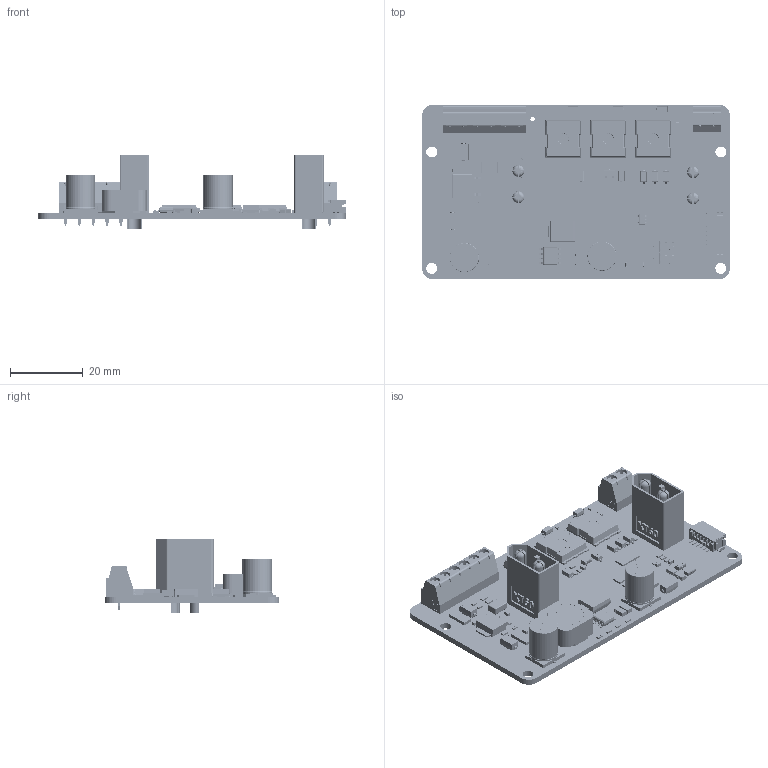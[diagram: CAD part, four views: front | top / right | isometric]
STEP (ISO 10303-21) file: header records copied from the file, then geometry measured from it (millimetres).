
FILE_DESCRIPTION(('Open CASCADE Model'),'2;1');
FILE_NAME('Open CASCADE Shape Model','2022-05-27T17:03:23',('Author'),( 'Open CASCADE'),'Open CASCADE STEP processor 6.8','Open CASCADE 6.8' ,'Unknown');
FILE_SCHEMA(('AUTOMOTIVE_DESIGN { 1 0 10303 214 1 1 1 1 }'));
Length unit declared in the file: millimetre
Products named in the file (144): PCB; Board; Open CASCADE STEP translator 6.8 1.1.1; D15; User_Library-SOD-123_DiodesInc; D4; D3; R3; R0603; R18; R22; Q1; SOT-23-3; D2; C13; Capacitor_0603_SMD; User_Library-cap0603_cap0603_body_??; User_Library-cap0603_pad_0603_??; R20; R19; L2; 6002790704; Extruded; 6002790544; 6002790384; 6002790224; L1; C8; SL-H; C4; U3; TO252; LOGO?; Q4; PG-HSOF-8-1; 6002792864; 6002792704; 6002792544; 6002792304; Cylinder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
Assembly tree (218 placements, depth 4):
  PCB
    Board
      Open CASCADE STEP translator 6.8 1.1.1
    D15
      User_Library-SOD-123_DiodesInc
    D4
      User_Library-SOD-123_DiodesInc
    D3
      User_Library-SOD-123_DiodesInc
    R3
      R0603
    R18
      R0603
    R22
      R0603
    Q1
      SOT-23-3
    D2
      User_Library-SOD-123_DiodesInc
    C13
      Capacitor_0603_SMD
        User_Library-cap0603_cap0603_body_??
        User_Library-cap0603_pad_0603_??
    R20
      R0603
    R19
      R0603
    L2
      6002790704
        Extruded
      6002790544
        Extruded
      6002790384
        Extruded
      6002790224
        Extruded
    L1
      6002790704
        Extruded
      6002790544
        Extruded
      6002790384
        Extruded
      6002790224
        Extruded
    C8
      SL-H
    C4
      SL-H
    U3
      TO252
        LOGO?
        TO252
    Q4
      PG-HSOF-8-1
      6002792864
        Extruded
      6002792704
        Extruded
      6002792544
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Bounding box: 84.65 x 48 x 20.5 mm (x, y, z)
Volume: 13684 mm3; surface area: 19683.1 mm2
Topology: 409 solids, 409 shells, 10903 faces, 27320 edges, 17440 vertices
Faces by surface type: plane 5539, bspline 2784, cylinder 2036, sphere 226, torus 154, extrusion 96, revolution 48, cone 20
Full cylindrical faces by diameter (mm): 0.6 x3, 1.2 x9, 3 x4, 3.5 x4, 4 x8, 4.4 x4
Entity records: 168633 total; most frequent: CARTESIAN_POINT 63382, ORIENTED_EDGE 18802, DIRECTION 15945, EDGE_CURVE 9401, VECTOR 6409, LINE 6361, VERTEX_POINT 6073, AXIS2_PLACEMENT_3D 4760
